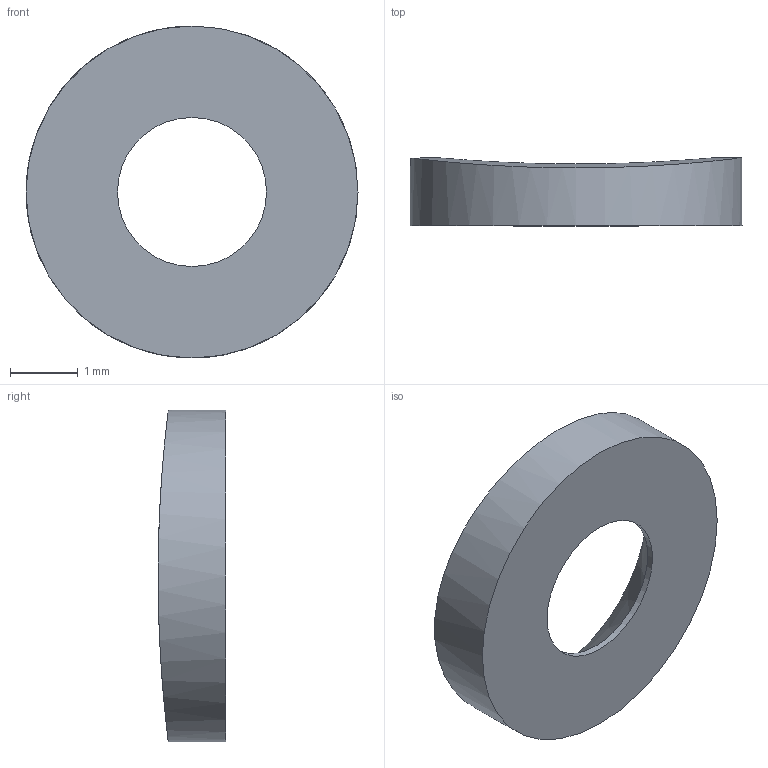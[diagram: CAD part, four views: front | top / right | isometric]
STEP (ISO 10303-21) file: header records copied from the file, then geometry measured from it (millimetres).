
FILE_DESCRIPTION(('SkyG Speed 90B - revision C6B-3 - 2026-10-08','CW-countersunk-washer'),'2;1');
FILE_NAME('CW-countersunk-washer_C6B-3','2026-10-08T03:13:11',('Author'),( 'Open CASCADE'),'Open CASCADE STEP processor 7.9','Open CASCADE 7.9' ,'Unknown');
FILE_SCHEMA(('AUTOMOTIVE_DESIGN { 1 0 10303 214 1 1 1 1 }'));
Length unit declared in the file: millimetre
Products named in the file (1): CW-countersunk-washer C6B-3
Bounding box: 4.9 x 1 x 4.9 mm (x, y, z)
Volume: 11.1 mm3; surface area: 48.5 mm2
Topology: 1 solids, 1 shells, 9 faces, 20 edges, 13 vertices
Faces by surface type: cylinder 5, plane 3, cone 1
Full cylindrical faces by diameter (mm): 2.2 x1, 4.9 x1
Entity records: 2205 total; most frequent: CARTESIAN_POINT 1813, DIRECTION 61, ORIENTED_EDGE 40, PCURVE 40, DEFINITIONAL_REPRESENTATION 40, B_SPLINE_CURVE_WITH_KNOTS 26, LINE 21, VECTOR 21
